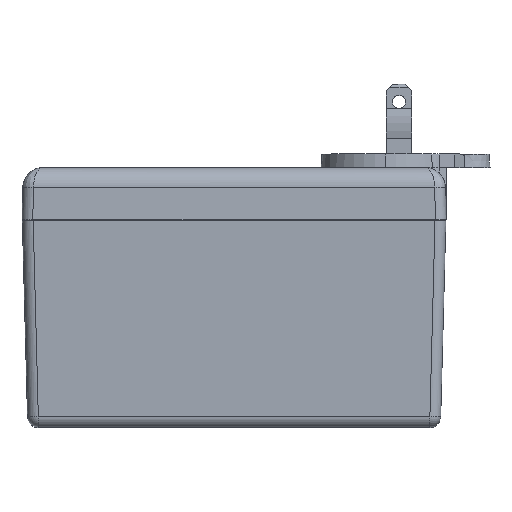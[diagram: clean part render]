
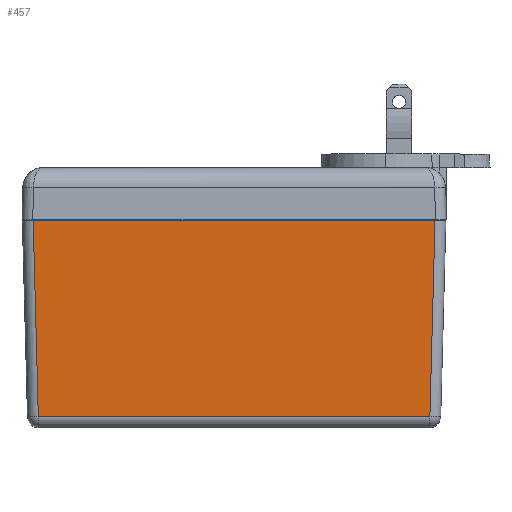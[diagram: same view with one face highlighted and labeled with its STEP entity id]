
A CAD part, top view. The second image highlights one B-rep face of the part: STEP entity #457.
In plain terms, the highlighted planar face has unit normal (0, -0.026, 1).
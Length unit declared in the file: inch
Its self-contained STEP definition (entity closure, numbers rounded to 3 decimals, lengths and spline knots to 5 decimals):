
#457 = ADVANCED_FACE ( 'NONE', ( #14958 ), #2356, .T. ) ;
#989 = EDGE_LOOP ( 'NONE', ( #12391, #12389, #12387, #12384 ) ) ;
#2353 = DIRECTION ( 'NONE',  ( 0., -1., -0.026 ) ) ;
#2354 = DIRECTION ( 'NONE',  ( 0., -0.026, 1. ) ) ;
#2356 = PLANE ( 'NONE',  #11480 ) ;
#2357 = CARTESIAN_POINT ( 'NONE',  ( -2.0545, 0., 1.116 ) ) ;
#5150 = VERTEX_POINT ( 'NONE', #14277 ) ;
#5157 = VERTEX_POINT ( 'NONE', #14267 ) ;
#5179 = VERTEX_POINT ( 'NONE', #15020 ) ;
#5187 = VERTEX_POINT ( 'NONE', #15160 ) ;
#6538 = DIRECTION ( 'NONE',  ( 1., 0., 0. ) ) ;
#6539 = CARTESIAN_POINT ( 'NONE',  ( -2.0545, 0., 1.116 ) ) ;
#6541 = DIRECTION ( 'NONE',  ( 0.026, -0.999, -0.026 ) ) ;
#6542 = CARTESIAN_POINT ( 'NONE',  ( -1.94961, 0.00274, 1.11607 ) ) ;
#6544 = DIRECTION ( 'NONE',  ( 0.026, 0.999, 0.026 ) ) ;
#6547 = CARTESIAN_POINT ( 'NONE',  ( 1.94679, -0.10471, 1.11326 ) ) ;
#6637 = DIRECTION ( 'NONE',  ( 1., 0., 0. ) ) ;
#6646 = CARTESIAN_POINT ( 'NONE',  ( -2.0545, -1.90275, 1.06617 ) ) ;
#9681 = EDGE_CURVE ( 'NONE', #5157, #5150, #10617, .T. ) ;
#9695 = EDGE_CURVE ( 'NONE', #5150, #5179, #18804, .T. ) ;
#9696 = EDGE_CURVE ( 'NONE', #5187, #5157, #18832, .T. ) ;
#9697 = EDGE_CURVE ( 'NONE', #5187, #5179, #18830, .T. ) ;
#10617 = LINE ( 'NONE', #6646, #10647 ) ;
#10647 = VECTOR ( 'NONE', #6637, 39.37008 ) ;
#11480 = AXIS2_PLACEMENT_3D ( 'NONE', #2357, #2354, #2353 ) ;
#12384 = ORIENTED_EDGE ( 'NONE', *, *, #9696, .T. ) ;
#12387 = ORIENTED_EDGE ( 'NONE', *, *, #9697, .F. ) ;
#12389 = ORIENTED_EDGE ( 'NONE', *, *, #9695, .T. ) ;
#12391 = ORIENTED_EDGE ( 'NONE', *, *, #9681, .T. ) ;
#14267 = CARTESIAN_POINT ( 'NONE',  ( -1.89971, -1.90275, 1.06617 ) ) ;
#14277 = CARTESIAN_POINT ( 'NONE',  ( 1.89971, -1.90275, 1.06617 ) ) ;
#14958 = FACE_OUTER_BOUND ( 'NONE', #989, .T. ) ;
#15020 = CARTESIAN_POINT ( 'NONE',  ( 1.94954, 0., 1.116 ) ) ;
#15160 = CARTESIAN_POINT ( 'NONE',  ( -1.94954, 0., 1.116 ) ) ;
#18804 = LINE ( 'NONE', #6547, #18812 ) ;
#18812 = VECTOR ( 'NONE', #6544, 39.37008 ) ;
#18829 = VECTOR ( 'NONE', #6538, 39.37008 ) ;
#18830 = LINE ( 'NONE', #6539, #18829 ) ;
#18831 = VECTOR ( 'NONE', #6541, 39.37008 ) ;
#18832 = LINE ( 'NONE', #6542, #18831 ) ;
